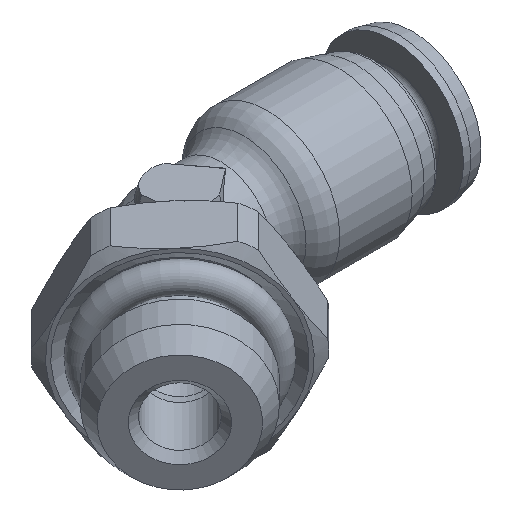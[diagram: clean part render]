
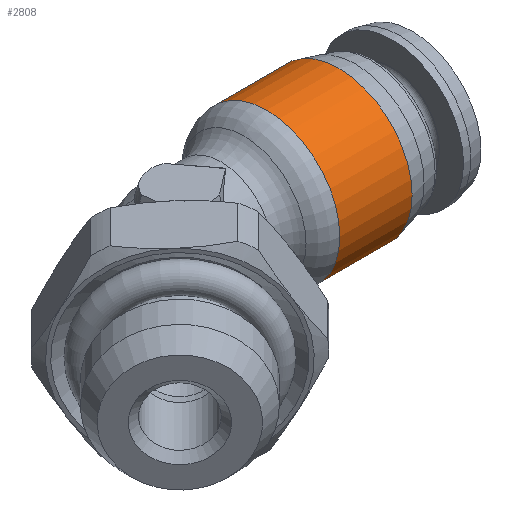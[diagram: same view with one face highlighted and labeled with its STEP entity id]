
A CAD part, isometric view. The second image highlights one B-rep face of the part: STEP entity #2808.
In plain terms, the highlighted cylindrical face has radius 5 mm (diameter 10 mm), a full revolution.
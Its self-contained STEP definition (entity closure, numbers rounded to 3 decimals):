
#694 = DIRECTION ( 'NONE',  ( 0., 0., 1. ) ) ;
#696 = DIRECTION ( 'NONE',  ( -1., 0., 0. ) ) ;
#698 = CARTESIAN_POINT ( 'NONE',  ( 10.88, 0., 0. ) ) ;
#713 = DIRECTION ( 'NONE',  ( 0., 0., 1. ) ) ;
#714 = DIRECTION ( 'NONE',  ( -1., 0., 0. ) ) ;
#715 = CARTESIAN_POINT ( 'NONE',  ( 5.936, 0., 0. ) ) ;
#1691 = DIRECTION ( 'NONE',  ( 0., 0., 1. ) ) ;
#1698 = DIRECTION ( 'NONE',  ( -1., 0., 0. ) ) ;
#1699 = CARTESIAN_POINT ( 'NONE',  ( 0., 0., 0. ) ) ;
#1811 = AXIS2_PLACEMENT_3D ( 'NONE', #698, #696, #694 ) ;
#1815 = AXIS2_PLACEMENT_3D ( 'NONE', #715, #714, #713 ) ;
#2378 = CYLINDRICAL_SURFACE ( 'NONE', #6144, 5. ) ;
#2386 = FACE_OUTER_BOUND ( 'NONE', #8006, .T. ) ;
#2387 = FACE_OUTER_BOUND ( 'NONE', #7367, .T. ) ;
#2808 = ADVANCED_FACE ( 'NONE', ( #2387, #2386 ), #2378, .T. ) ;
#4562 = CARTESIAN_POINT ( 'NONE',  ( 10.88, 0., 5. ) ) ;
#4564 = CARTESIAN_POINT ( 'NONE',  ( 5.936, 0., 5. ) ) ;
#6029 = EDGE_CURVE ( 'NONE', #12232, #12232, #12166, .T. ) ;
#6033 = EDGE_CURVE ( 'NONE', #12230, #12230, #12165, .T. ) ;
#6144 = AXIS2_PLACEMENT_3D ( 'NONE', #1699, #1698, #1691 ) ;
#7367 = EDGE_LOOP ( 'NONE', ( #11177 ) ) ;
#8006 = EDGE_LOOP ( 'NONE', ( #11214 ) ) ;
#11177 = ORIENTED_EDGE ( 'NONE', *, *, #6029, .F. ) ;
#11214 = ORIENTED_EDGE ( 'NONE', *, *, #6033, .T. ) ;
#12165 = CIRCLE ( 'NONE', #1811, 5. ) ;
#12166 = CIRCLE ( 'NONE', #1815, 5. ) ;
#12230 = VERTEX_POINT ( 'NONE', #4562 ) ;
#12232 = VERTEX_POINT ( 'NONE', #4564 ) ;
